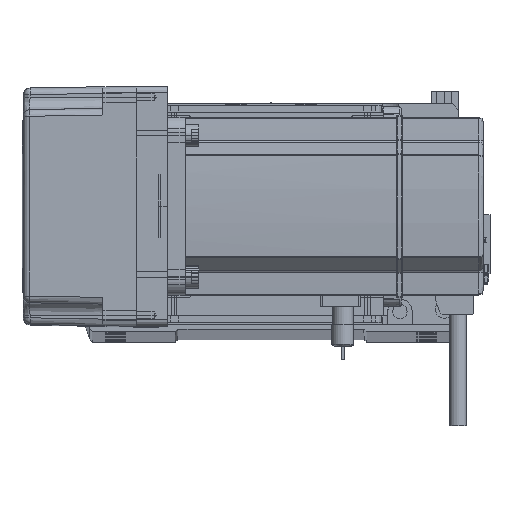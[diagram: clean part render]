
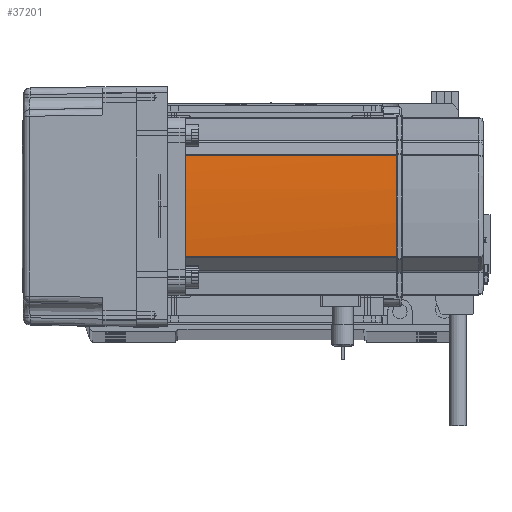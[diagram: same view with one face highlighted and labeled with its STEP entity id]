
A CAD part, top view. The second image highlights one B-rep face of the part: STEP entity #37201.
In plain terms, the highlighted cylindrical face has radius 270 mm (diameter 540 mm), a partial arc.
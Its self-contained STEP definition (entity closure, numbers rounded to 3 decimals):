
#23 = CIRCLE ( 'NONE', #18796, 270. ) ;
#1032 = CIRCLE ( 'NONE', #41937, 270. ) ;
#3375 = CARTESIAN_POINT ( 'NONE',  ( 40., -0.127, 134. ) ) ;
#5007 = LINE ( 'NONE', #58217, #53695 ) ;
#8723 = DIRECTION ( 'NONE',  ( -1., 0., 0. ) ) ;
#10098 = EDGE_CURVE ( 'NONE', #32483, #40008, #1032, .T. ) ;
#12018 = EDGE_CURVE ( 'NONE', #40008, #26396, #5007, .T. ) ;
#13054 = CARTESIAN_POINT ( 'NONE',  ( 40., 0.127, 134. ) ) ;
#14611 = DIRECTION ( 'NONE',  ( -1., 0., 0. ) ) ;
#16118 = CARTESIAN_POINT ( 'NONE',  ( 40., 0.127, 134. ) ) ;
#17350 = CARTESIAN_POINT ( 'NONE',  ( 39.042, 22.724, 134. ) ) ;
#18796 = AXIS2_PLACEMENT_3D ( 'NONE', #53699, #44070, #8723 ) ;
#18971 = ORIENTED_EDGE ( 'NONE', *, *, #59273, .F. ) ;
#19571 = CIRCLE ( 'NONE', #57732, 270. ) ;
#22382 = DIRECTION ( 'NONE',  ( -1., 0., 0. ) ) ;
#23400 = ORIENTED_EDGE ( 'NONE', *, *, #10098, .T. ) ;
#24066 = DIRECTION ( 'NONE',  ( 0., 0., -1. ) ) ;
#25289 = AXIS2_PLACEMENT_3D ( 'NONE', #53655, #24066, #14611 ) ;
#26048 = DIRECTION ( 'NONE',  ( -1., 0., 0. ) ) ;
#26396 = VERTEX_POINT ( 'NONE', #45080 ) ;
#27009 = CARTESIAN_POINT ( 'NONE',  ( -230., 0., 134. ) ) ;
#27302 = VECTOR ( 'NONE', #39426, 1000. ) ;
#28215 = DIRECTION ( 'NONE',  ( 0., 0., -1. ) ) ;
#29629 = LINE ( 'NONE', #43818, #27302 ) ;
#29955 = B_SPLINE_CURVE_WITH_KNOTS ( 'NONE', 3,
 ( #3375, #58455, #43152, #13054 ),
 .UNSPECIFIED., .F., .F.,
 ( 4, 4 ),
 ( 0., 1. ),
 .UNSPECIFIED. ) ;
#30897 = EDGE_CURVE ( 'NONE', #46616, #46893, #19571, .T. ) ;
#32468 = EDGE_CURVE ( 'NONE', #32483, #46893, #29955, .T. ) ;
#32483 = VERTEX_POINT ( 'NONE', #38529 ) ;
#37201 = ADVANCED_FACE ( 'NONE', ( #56711 ), #48097, .T. ) ;
#38529 = CARTESIAN_POINT ( 'NONE',  ( 40., -0.127, 134. ) ) ;
#39426 = DIRECTION ( 'NONE',  ( 0., 0., 1. ) ) ;
#40008 = VERTEX_POINT ( 'NONE', #56427 ) ;
#41937 = AXIS2_PLACEMENT_3D ( 'NONE', #27009, #62740, #22382 ) ;
#42763 = EDGE_CURVE ( 'NONE', #48782, #46616, #29629, .T. ) ;
#43110 = ORIENTED_EDGE ( 'NONE', *, *, #12018, .T. ) ;
#43152 = CARTESIAN_POINT ( 'NONE',  ( 40., 0.042, 134. ) ) ;
#43332 = ORIENTED_EDGE ( 'NONE', *, *, #42763, .T. ) ;
#43818 = CARTESIAN_POINT ( 'NONE',  ( 39.042, 22.724, 58. ) ) ;
#44070 = DIRECTION ( 'NONE',  ( 0., 0., -1. ) ) ;
#44549 = EDGE_LOOP ( 'NONE', ( #43110, #18971, #43332, #45292, #49828, #23400 ) ) ;
#45080 = CARTESIAN_POINT ( 'NONE',  ( 39.042, -22.724, 39. ) ) ;
#45292 = ORIENTED_EDGE ( 'NONE', *, *, #30897, .T. ) ;
#46440 = DIRECTION ( 'NONE',  ( 0., 0., -1. ) ) ;
#46616 = VERTEX_POINT ( 'NONE', #17350 ) ;
#46655 = CARTESIAN_POINT ( 'NONE',  ( -230., 0., 134. ) ) ;
#46893 = VERTEX_POINT ( 'NONE', #16118 ) ;
#48097 = CYLINDRICAL_SURFACE ( 'NONE', #25289, 270. ) ;
#48782 = VERTEX_POINT ( 'NONE', #55787 ) ;
#49828 = ORIENTED_EDGE ( 'NONE', *, *, #32468, .F. ) ;
#53655 = CARTESIAN_POINT ( 'NONE',  ( -230., 0., 58. ) ) ;
#53695 = VECTOR ( 'NONE', #28215, 1000. ) ;
#53699 = CARTESIAN_POINT ( 'NONE',  ( -230., 0., 39. ) ) ;
#55787 = CARTESIAN_POINT ( 'NONE',  ( 39.042, 22.724, 39. ) ) ;
#56427 = CARTESIAN_POINT ( 'NONE',  ( 39.042, -22.724, 134. ) ) ;
#56711 = FACE_OUTER_BOUND ( 'NONE', #44549, .T. ) ;
#57732 = AXIS2_PLACEMENT_3D ( 'NONE', #46655, #46440, #26048 ) ;
#58217 = CARTESIAN_POINT ( 'NONE',  ( 39.042, -22.724, 58. ) ) ;
#58455 = CARTESIAN_POINT ( 'NONE',  ( 40., -0.042, 134. ) ) ;
#59273 = EDGE_CURVE ( 'NONE', #48782, #26396, #23, .T. ) ;
#62740 = DIRECTION ( 'NONE',  ( 0., 0., -1. ) ) ;
